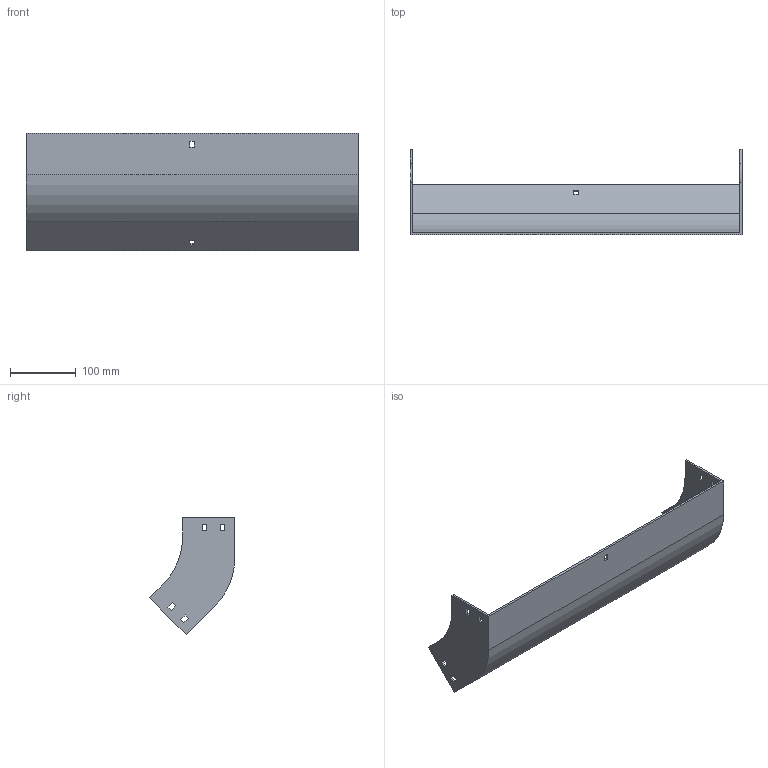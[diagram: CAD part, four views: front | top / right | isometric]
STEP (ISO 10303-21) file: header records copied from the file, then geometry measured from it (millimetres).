
FILE_DESCRIPTION (( 'STEP AP214' ), '1' );
FILE_NAME ('31F1C500.step', '2025-02-21T13:00:52', ( '' ), ( '' ), 'SwSTEP 2.0', 'SolidWorks 2023', '' );
FILE_SCHEMA (( 'AUTOMOTIVE_DESIGN' ));
Length unit declared in the file: millimetre
Products named in the file (1): 31F1C500
Bounding box: 504 x 129.5 x 177.79 mm (x, y, z)
Volume: 447160.3 mm3; surface area: 262253.6 mm2
Topology: 1 solids, 1 shells, 58 faces, 168 edges, 112 vertices
Faces by surface type: plane 54, cylinder 4
Entity records: 1943 total; most frequent: CARTESIAN_POINT 339, ORIENTED_EDGE 336, DIRECTION 294, EDGE_CURVE 168, VECTOR 160, LINE 160, VERTEX_POINT 112, EDGE_LOOP 78
